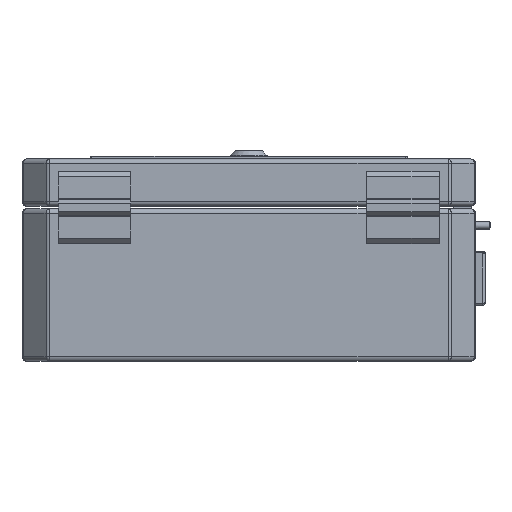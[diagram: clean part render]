
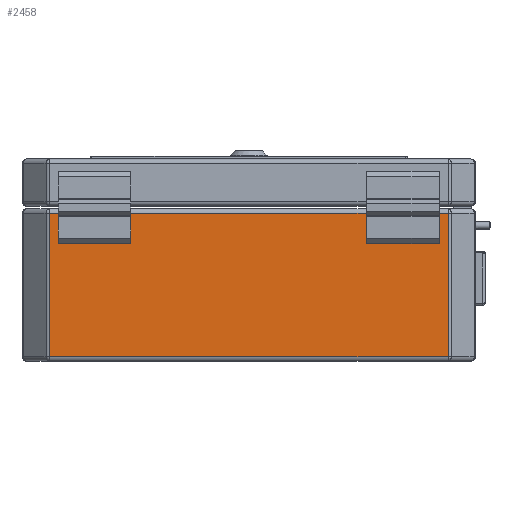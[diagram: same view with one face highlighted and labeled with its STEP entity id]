
A CAD part, left-side view. The second image highlights one B-rep face of the part: STEP entity #2458.
In plain terms, the highlighted planar face has unit normal (-1, 0, 0).
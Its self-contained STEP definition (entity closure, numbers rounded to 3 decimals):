
#1941=CARTESIAN_POINT('',(-212.5,-65.,64.75));
#1942=VERTEX_POINT('',#1941);
#1949=CARTESIAN_POINT('',(-212.5,-65.,79.35));
#1950=VERTEX_POINT('',#1949);
#1951=CARTESIAN_POINT('',(-212.5,-65.,64.75));
#1952=DIRECTION('',(0.,0.,1.));
#1953=VECTOR('',#1952,14.6);
#1954=LINE('',#1951,#1953);
#1955=EDGE_CURVE('',#1942,#1950,#1954,.T.);
#2110=CARTESIAN_POINT('',(-212.5,-105.,64.75));
#2111=VERTEX_POINT('',#2110);
#2118=CARTESIAN_POINT('',(-212.5,-105.,79.35));
#2119=VERTEX_POINT('',#2118);
#2120=CARTESIAN_POINT('',(-212.5,-105.,64.75));
#2121=DIRECTION('',(0.,0.,1.));
#2122=VECTOR('',#2121,14.6);
#2123=LINE('',#2120,#2122);
#2124=EDGE_CURVE('',#2111,#2119,#2123,.T.);
#2363=CARTESIAN_POINT('',(-212.5,-65.,64.75));
#2364=DIRECTION('',(0.,-1.,0.));
#2365=VECTOR('',#2364,40.);
#2366=LINE('',#2363,#2365);
#2367=EDGE_CURVE('',#1942,#2111,#2366,.T.);
#2374=CARTESIAN_POINT('',(-212.5,0.,43.25));
#2375=DIRECTION('',(0.,-1.,0.));
#2376=DIRECTION('',(-1.,0.,0.));
#2377=AXIS2_PLACEMENT_3D('',#2374,#2376,#2375);
#2378=PLANE('',#2377);
#2379=CARTESIAN_POINT('',(-212.5,109.964,2.5));
#2380=VERTEX_POINT('',#2379);
#2381=CARTESIAN_POINT('',(-212.5,-109.964,2.5));
#2382=VERTEX_POINT('',#2381);
#2383=CARTESIAN_POINT('',(-212.5,109.964,2.5));
#2384=DIRECTION('',(0.,-1.,0.));
#2385=VECTOR('',#2384,219.929);
#2386=LINE('',#2383,#2385);
#2387=EDGE_CURVE('',#2380,#2382,#2386,.T.);
#2388=ORIENTED_EDGE('',*,*,#2387,.T.);
#2389=CARTESIAN_POINT('',(-212.5,-109.964,81.5));
#2390=VERTEX_POINT('',#2389);
#2391=CARTESIAN_POINT('',(-212.5,-109.964,2.5));
#2392=DIRECTION('',(0.,0.,1.));
#2393=VECTOR('',#2392,79.);
#2394=LINE('',#2391,#2393);
#2395=EDGE_CURVE('',#2382,#2390,#2394,.T.);
#2396=ORIENTED_EDGE('',*,*,#2395,.T.);
#2397=CARTESIAN_POINT('',(-212.5,109.964,81.5));
#2398=VERTEX_POINT('',#2397);
#2399=CARTESIAN_POINT('',(-212.5,109.964,81.5));
#2400=DIRECTION('',(0.,-1.,0.));
#2401=VECTOR('',#2400,219.929);
#2402=LINE('',#2399,#2401);
#2403=EDGE_CURVE('',#2398,#2390,#2402,.T.);
#2404=ORIENTED_EDGE('',*,*,#2403,.F.);
#2405=CARTESIAN_POINT('',(-212.5,109.964,2.5));
#2406=DIRECTION('',(0.,0.,1.));
#2407=VECTOR('',#2406,79.);
#2408=LINE('',#2405,#2407);
#2409=EDGE_CURVE('',#2380,#2398,#2408,.T.);
#2410=ORIENTED_EDGE('',*,*,#2409,.F.);
#2411=EDGE_LOOP('',(#2388,#2396,#2404,#2410));
#2412=FACE_OUTER_BOUND('',#2411,.T.);
#2413=ORIENTED_EDGE('',*,*,#1955,.T.);
#2414=CARTESIAN_POINT('',(-212.5,-65.,79.35));
#2415=DIRECTION('',(0.,-1.,0.));
#2416=VECTOR('',#2415,40.);
#2417=LINE('',#2414,#2416);
#2418=EDGE_CURVE('',#1950,#2119,#2417,.T.);
#2419=ORIENTED_EDGE('',*,*,#2418,.T.);
#2420=ORIENTED_EDGE('',*,*,#2124,.F.);
#2421=ORIENTED_EDGE('',*,*,#2367,.F.);
#2422=EDGE_LOOP('',(#2413,#2419,#2420,#2421));
#2423=FACE_BOUND('',#2422,.T.);
#2424=CARTESIAN_POINT('',(-212.5,65.,64.75));
#2425=VERTEX_POINT('',#2424);
#2426=CARTESIAN_POINT('',(-212.5,65.,79.35));
#2427=VERTEX_POINT('',#2426);
#2428=CARTESIAN_POINT('',(-212.5,65.,64.75));
#2429=DIRECTION('',(0.,0.,1.));
#2430=VECTOR('',#2429,14.6);
#2431=LINE('',#2428,#2430);
#2432=EDGE_CURVE('',#2425,#2427,#2431,.T.);
#2433=ORIENTED_EDGE('',*,*,#2432,.F.);
#2434=CARTESIAN_POINT('',(-212.5,105.,64.75));
#2435=VERTEX_POINT('',#2434);
#2436=CARTESIAN_POINT('',(-212.5,65.,64.75));
#2437=DIRECTION('',(0.,1.,0.));
#2438=VECTOR('',#2437,40.);
#2439=LINE('',#2436,#2438);
#2440=EDGE_CURVE('',#2425,#2435,#2439,.T.);
#2441=ORIENTED_EDGE('',*,*,#2440,.T.);
#2442=CARTESIAN_POINT('',(-212.5,105.,79.35));
#2443=VERTEX_POINT('',#2442);
#2444=CARTESIAN_POINT('',(-212.5,105.,64.75));
#2445=DIRECTION('',(0.,0.,1.));
#2446=VECTOR('',#2445,14.6);
#2447=LINE('',#2444,#2446);
#2448=EDGE_CURVE('',#2435,#2443,#2447,.T.);
#2449=ORIENTED_EDGE('',*,*,#2448,.T.);
#2450=CARTESIAN_POINT('',(-212.5,65.,79.35));
#2451=DIRECTION('',(0.,1.,0.));
#2452=VECTOR('',#2451,40.);
#2453=LINE('',#2450,#2452);
#2454=EDGE_CURVE('',#2427,#2443,#2453,.T.);
#2455=ORIENTED_EDGE('',*,*,#2454,.F.);
#2456=EDGE_LOOP('',(#2433,#2441,#2449,#2455));
#2457=FACE_BOUND('',#2456,.T.);
#2458=ADVANCED_FACE('',(#2412,#2423,#2457),#2378,.T.);
